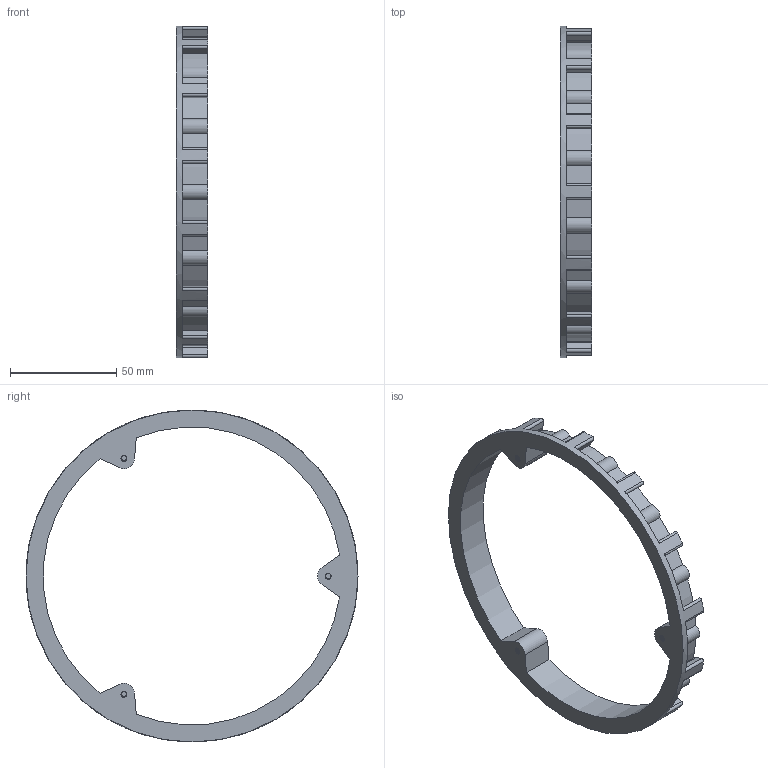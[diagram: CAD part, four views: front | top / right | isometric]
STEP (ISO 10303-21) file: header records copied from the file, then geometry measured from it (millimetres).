
FILE_DESCRIPTION(/* description */ (''),/* implementation_level */ '2;1');
FILE_NAME(/* name */ 'LED STRIP HOLDER.step',/* time_stamp */ '2024-02-28T17:28:39Z',/* author */ (''),/* organization */ (''),/* preprocessor_version */ 'ST-DEVELOPER v20',/* originating_system */ 'Autodesk Translation Framework v12.20.1.177',/* authorisation */ '');
FILE_SCHEMA (('AUTOMOTIVE_DESIGN { 1 0 10303 214 3 1 1 }'));
Length unit declared in the file: millimetre
Products named in the file (1): LED STRIP HOLDER
Bounding box: 15 x 156 x 156 mm (x, y, z)
Volume: 32900.5 mm3; surface area: 26613.2 mm2
Topology: 1 solids, 1 shells, 287 faces, 843 edges, 562 vertices
Faces by surface type: cylinder 227, plane 54, bspline 6
Full cylindrical faces by diameter (mm): 2.529 x36, 3.086 x18, 156 x1
Entity records: 18098 total; most frequent: CARTESIAN_POINT 10858, ORIENTED_EDGE 1686, DIRECTION 1289, EDGE_CURVE 843, VERTEX_POINT 562, AXIS2_PLACEMENT_3D 476, LINE 337, VECTOR 337
